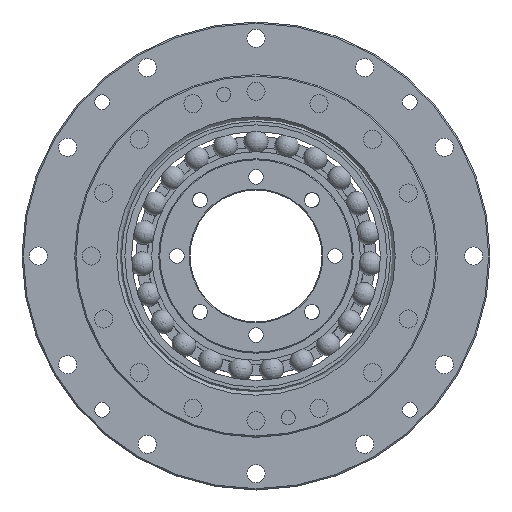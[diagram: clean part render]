
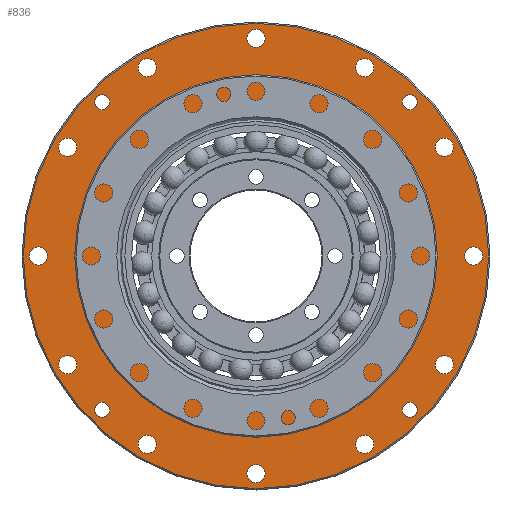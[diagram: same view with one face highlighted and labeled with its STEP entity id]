
A CAD part, left-side view. The second image highlights one B-rep face of the part: STEP entity #836.
In plain terms, the highlighted planar face has unit normal (-1, 0, 0).
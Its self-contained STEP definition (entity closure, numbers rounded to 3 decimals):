
#836=ADVANCED_FACE('',(#1167,#1168,#1169,#1170,#1171,#1172,#1173,#1174,
#1175,#1176,#1177,#1178,#1179,#1180,#1181,#1182,#1183,#1184),#1041,.F.);
#1041=PLANE('',#3942);
#1167=FACE_BOUND('',#1480,.T.);
#1168=FACE_BOUND('',#1481,.T.);
#1169=FACE_BOUND('',#1482,.T.);
#1170=FACE_BOUND('',#1483,.T.);
#1171=FACE_BOUND('',#1484,.T.);
#1172=FACE_BOUND('',#1485,.T.);
#1173=FACE_BOUND('',#1486,.T.);
#1174=FACE_BOUND('',#1487,.T.);
#1175=FACE_BOUND('',#1488,.T.);
#1176=FACE_BOUND('',#1489,.T.);
#1177=FACE_BOUND('',#1490,.T.);
#1178=FACE_BOUND('',#1491,.T.);
#1179=FACE_BOUND('',#1492,.T.);
#1180=FACE_BOUND('',#1493,.T.);
#1181=FACE_BOUND('',#1494,.T.);
#1182=FACE_BOUND('',#1495,.T.);
#1183=FACE_BOUND('',#1496,.T.);
#1184=FACE_BOUND('',#1497,.T.);
#1480=EDGE_LOOP('',(#1873));
#1481=EDGE_LOOP('',(#1874));
#1482=EDGE_LOOP('',(#1875));
#1483=EDGE_LOOP('',(#1876));
#1484=EDGE_LOOP('',(#1877));
#1485=EDGE_LOOP('',(#1878));
#1486=EDGE_LOOP('',(#1879));
#1487=EDGE_LOOP('',(#1880));
#1488=EDGE_LOOP('',(#1881));
#1489=EDGE_LOOP('',(#1882));
#1490=EDGE_LOOP('',(#1883));
#1491=EDGE_LOOP('',(#1884));
#1492=EDGE_LOOP('',(#1885));
#1493=EDGE_LOOP('',(#1886));
#1494=EDGE_LOOP('',(#1887));
#1495=EDGE_LOOP('',(#1888));
#1496=EDGE_LOOP('',(#1889));
#1497=EDGE_LOOP('',(#1890));
#1873=ORIENTED_EDGE('',*,*,#3128,.T.);
#1874=ORIENTED_EDGE('',*,*,#3127,.T.);
#1875=ORIENTED_EDGE('',*,*,#3126,.T.);
#1876=ORIENTED_EDGE('',*,*,#3125,.T.);
#1877=ORIENTED_EDGE('',*,*,#3124,.T.);
#1878=ORIENTED_EDGE('',*,*,#3123,.T.);
#1879=ORIENTED_EDGE('',*,*,#3122,.T.);
#1880=ORIENTED_EDGE('',*,*,#3121,.T.);
#1881=ORIENTED_EDGE('',*,*,#3120,.T.);
#1882=ORIENTED_EDGE('',*,*,#3119,.T.);
#1883=ORIENTED_EDGE('',*,*,#3118,.T.);
#1884=ORIENTED_EDGE('',*,*,#3117,.T.);
#1885=ORIENTED_EDGE('',*,*,#3116,.T.);
#1886=ORIENTED_EDGE('',*,*,#3115,.T.);
#1887=ORIENTED_EDGE('',*,*,#3114,.T.);
#1888=ORIENTED_EDGE('',*,*,#3113,.T.);
#1889=ORIENTED_EDGE('',*,*,#3112,.T.);
#1890=ORIENTED_EDGE('',*,*,#3111,.T.);
#2738=VERTEX_POINT('',#5387);
#2739=VERTEX_POINT('',#5390);
#2740=VERTEX_POINT('',#5393);
#2741=VERTEX_POINT('',#5396);
#2742=VERTEX_POINT('',#5399);
#2743=VERTEX_POINT('',#5402);
#2744=VERTEX_POINT('',#5405);
#2745=VERTEX_POINT('',#5408);
#2746=VERTEX_POINT('',#5411);
#2747=VERTEX_POINT('',#5414);
#2748=VERTEX_POINT('',#5417);
#2749=VERTEX_POINT('',#5420);
#2750=VERTEX_POINT('',#5423);
#2751=VERTEX_POINT('',#5426);
#2752=VERTEX_POINT('',#5429);
#2753=VERTEX_POINT('',#5432);
#2754=VERTEX_POINT('',#5435);
#2755=VERTEX_POINT('',#5438);
#3111=EDGE_CURVE('',#2738,#2738,#3647,.T.);
#3112=EDGE_CURVE('',#2739,#2739,#3648,.T.);
#3113=EDGE_CURVE('',#2740,#2740,#3649,.T.);
#3114=EDGE_CURVE('',#2741,#2741,#3650,.T.);
#3115=EDGE_CURVE('',#2742,#2742,#3651,.T.);
#3116=EDGE_CURVE('',#2743,#2743,#3652,.T.);
#3117=EDGE_CURVE('',#2744,#2744,#3653,.T.);
#3118=EDGE_CURVE('',#2745,#2745,#3654,.T.);
#3119=EDGE_CURVE('',#2746,#2746,#3655,.T.);
#3120=EDGE_CURVE('',#2747,#2747,#3656,.T.);
#3121=EDGE_CURVE('',#2748,#2748,#3657,.T.);
#3122=EDGE_CURVE('',#2749,#2749,#3658,.T.);
#3123=EDGE_CURVE('',#2750,#2750,#3659,.T.);
#3124=EDGE_CURVE('',#2751,#2751,#3660,.T.);
#3125=EDGE_CURVE('',#2752,#2752,#3661,.T.);
#3126=EDGE_CURVE('',#2753,#2753,#3662,.T.);
#3127=EDGE_CURVE('',#2754,#2754,#3663,.T.);
#3128=EDGE_CURVE('',#2755,#2755,#3664,.T.);
#3647=CIRCLE('',#3907,70.6);
#3648=CIRCLE('',#3909,2.75);
#3649=CIRCLE('',#3911,2.75);
#3650=CIRCLE('',#3913,2.75);
#3651=CIRCLE('',#3915,2.75);
#3652=CIRCLE('',#3917,2.75);
#3653=CIRCLE('',#3919,2.75);
#3654=CIRCLE('',#3921,2.75);
#3655=CIRCLE('',#3923,2.75);
#3656=CIRCLE('',#3925,2.75);
#3657=CIRCLE('',#3927,2.75);
#3658=CIRCLE('',#3929,2.75);
#3659=CIRCLE('',#3931,2.75);
#3660=CIRCLE('',#3933,2.25);
#3661=CIRCLE('',#3935,2.25);
#3662=CIRCLE('',#3937,2.25);
#3663=CIRCLE('',#3939,2.25);
#3664=CIRCLE('',#3941,42.37);
#3907=AXIS2_PLACEMENT_3D('',#5386,#4409,#4410);
#3909=AXIS2_PLACEMENT_3D('',#5389,#4413,#4414);
#3911=AXIS2_PLACEMENT_3D('',#5392,#4417,#4418);
#3913=AXIS2_PLACEMENT_3D('',#5395,#4421,#4422);
#3915=AXIS2_PLACEMENT_3D('',#5398,#4425,#4426);
#3917=AXIS2_PLACEMENT_3D('',#5401,#4429,#4430);
#3919=AXIS2_PLACEMENT_3D('',#5404,#4433,#4434);
#3921=AXIS2_PLACEMENT_3D('',#5407,#4437,#4438);
#3923=AXIS2_PLACEMENT_3D('',#5410,#4441,#4442);
#3925=AXIS2_PLACEMENT_3D('',#5413,#4445,#4446);
#3927=AXIS2_PLACEMENT_3D('',#5416,#4449,#4450);
#3929=AXIS2_PLACEMENT_3D('',#5419,#4453,#4454);
#3931=AXIS2_PLACEMENT_3D('',#5422,#4457,#4458);
#3933=AXIS2_PLACEMENT_3D('',#5425,#4461,#4462);
#3935=AXIS2_PLACEMENT_3D('',#5428,#4465,#4466);
#3937=AXIS2_PLACEMENT_3D('',#5431,#4469,#4470);
#3939=AXIS2_PLACEMENT_3D('',#5434,#4473,#4474);
#3941=AXIS2_PLACEMENT_3D('',#5437,#4477,#4478);
#3942=AXIS2_PLACEMENT_3D('',#5439,#4479,#4480);
#4409=DIRECTION('',(-1.,0.,0.));
#4410=DIRECTION('',(0.,0.,-1.));
#4413=DIRECTION('',(1.,0.,0.));
#4414=DIRECTION('',(0.,0.,-1.));
#4417=DIRECTION('',(1.,0.,0.));
#4418=DIRECTION('',(0.,0.,-1.));
#4421=DIRECTION('',(1.,0.,0.));
#4422=DIRECTION('',(0.,0.,-1.));
#4425=DIRECTION('',(1.,0.,0.));
#4426=DIRECTION('',(0.,0.,-1.));
#4429=DIRECTION('',(1.,0.,0.));
#4430=DIRECTION('',(0.,0.,-1.));
#4433=DIRECTION('',(1.,0.,0.));
#4434=DIRECTION('',(0.,0.,-1.));
#4437=DIRECTION('',(1.,0.,0.));
#4438=DIRECTION('',(0.,0.,-1.));
#4441=DIRECTION('',(1.,0.,0.));
#4442=DIRECTION('',(0.,0.,-1.));
#4445=DIRECTION('',(1.,0.,0.));
#4446=DIRECTION('',(0.,0.,-1.));
#4449=DIRECTION('',(1.,0.,0.));
#4450=DIRECTION('',(0.,0.,-1.));
#4453=DIRECTION('',(1.,0.,0.));
#4454=DIRECTION('',(0.,0.,-1.));
#4457=DIRECTION('',(1.,0.,0.));
#4458=DIRECTION('',(0.,0.,-1.));
#4461=DIRECTION('',(1.,0.,0.));
#4462=DIRECTION('',(0.,0.,-1.));
#4465=DIRECTION('',(1.,0.,0.));
#4466=DIRECTION('',(0.,0.,-1.));
#4469=DIRECTION('',(1.,0.,0.));
#4470=DIRECTION('',(0.,0.,-1.));
#4473=DIRECTION('',(1.,0.,0.));
#4474=DIRECTION('',(0.,0.,-1.));
#4477=DIRECTION('',(1.,0.,0.));
#4478=DIRECTION('',(0.,0.,-1.));
#4479=DIRECTION('',(1.,0.,0.));
#4480=DIRECTION('',(0.,0.,-1.));
#5386=CARTESIAN_POINT('',(38.8,0.,0.));
#5387=CARTESIAN_POINT('',(38.8,0.,-70.6));
#5389=CARTESIAN_POINT('',(38.8,66.,0.));
#5390=CARTESIAN_POINT('',(38.8,66.,-2.75));
#5392=CARTESIAN_POINT('',(38.8,57.158,33.));
#5393=CARTESIAN_POINT('',(38.8,57.158,30.25));
#5395=CARTESIAN_POINT('',(38.8,33.,57.158));
#5396=CARTESIAN_POINT('',(38.8,33.,54.408));
#5398=CARTESIAN_POINT('',(38.8,0.,66.));
#5399=CARTESIAN_POINT('',(38.8,0.,63.25));
#5401=CARTESIAN_POINT('',(38.8,-33.,57.158));
#5402=CARTESIAN_POINT('',(38.8,-33.,54.408));
#5404=CARTESIAN_POINT('',(38.8,-57.158,33.));
#5405=CARTESIAN_POINT('',(38.8,-57.158,30.25));
#5407=CARTESIAN_POINT('',(38.8,-66.,0.));
#5408=CARTESIAN_POINT('',(38.8,-66.,-2.75));
#5410=CARTESIAN_POINT('',(38.8,-57.158,-33.));
#5411=CARTESIAN_POINT('',(38.8,-57.158,-35.75));
#5413=CARTESIAN_POINT('',(38.8,-33.,-57.158));
#5414=CARTESIAN_POINT('',(38.8,-33.,-59.908));
#5416=CARTESIAN_POINT('',(38.8,0.,-66.));
#5417=CARTESIAN_POINT('',(38.8,0.,-68.75));
#5419=CARTESIAN_POINT('',(38.8,33.,-57.158));
#5420=CARTESIAN_POINT('',(38.8,33.,-59.908));
#5422=CARTESIAN_POINT('',(38.8,57.158,-33.));
#5423=CARTESIAN_POINT('',(38.8,57.158,-35.75));
#5425=CARTESIAN_POINT('',(38.8,46.669,-46.669));
#5426=CARTESIAN_POINT('',(38.8,46.669,-48.919));
#5428=CARTESIAN_POINT('',(38.8,-46.669,-46.669));
#5429=CARTESIAN_POINT('',(38.8,-46.669,-48.919));
#5431=CARTESIAN_POINT('',(38.8,-46.669,46.669));
#5432=CARTESIAN_POINT('',(38.8,-46.669,44.419));
#5434=CARTESIAN_POINT('',(38.8,46.669,46.669));
#5435=CARTESIAN_POINT('',(38.8,46.669,44.419));
#5437=CARTESIAN_POINT('',(38.8,0.,0.));
#5438=CARTESIAN_POINT('',(38.8,0.,-42.37));
#5439=CARTESIAN_POINT('',(38.8,57.,0.));
